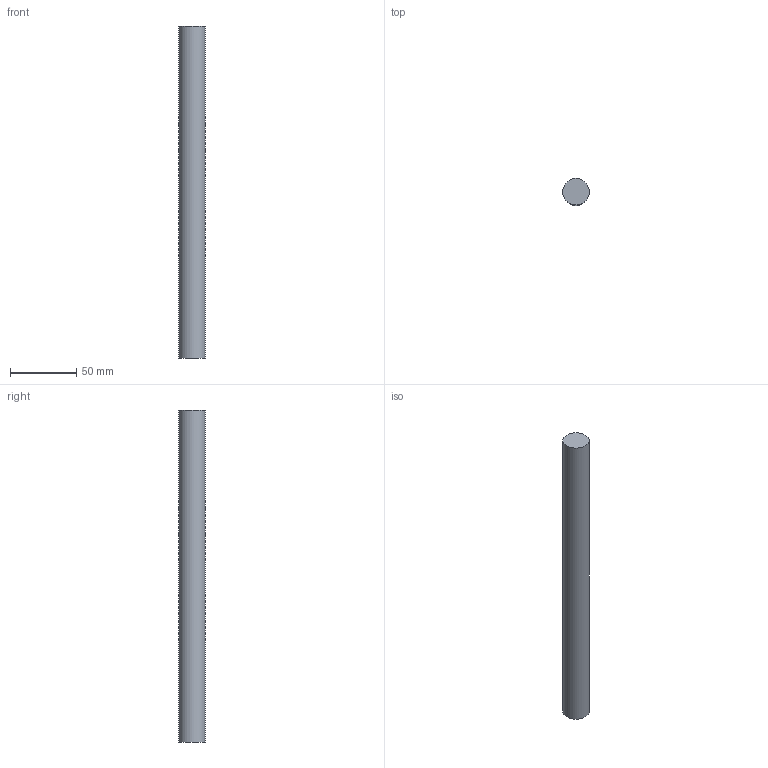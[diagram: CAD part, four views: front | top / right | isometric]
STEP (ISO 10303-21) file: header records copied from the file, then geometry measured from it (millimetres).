
FILE_DESCRIPTION(/* description */ (''),/* implementation_level */ '2;1');
FILE_NAME(/* name */ 'C:\Users\David\Desktop\stepFiles\Profilfuehrung\WF20x250.stp',/* time_stamp */ '2018-06-24T15:49:01+02:00',/* author */ ('David'),/* organization */ (''),/* preprocessor_version */ 'ST-DEVELOPER v17',/* originating_system */ 'Autodesk Inventor 2019',/* authorisation */ '');
FILE_SCHEMA (('AUTOMOTIVE_DESIGN { 1 0 10303 214 3 1 1 }'));
Length unit declared in the file: millimetre
Products named in the file (1): Wellenfuehrung
Bounding box: 20 x 20 x 250 mm (x, y, z)
Volume: 78539.8 mm3; surface area: 16336.3 mm2
Topology: 1 solids, 1 shells, 3 faces, 3 edges, 2 vertices
Faces by surface type: plane 2, cylinder 1
Full cylindrical faces by diameter (mm): 20 x1
Entity records: 98 total; most frequent: DIRECTION 13, CARTESIAN_POINT 9, ORIENTED_EDGE 6, AXIS2_PLACEMENT_3D 6, FACE_OUTER_BOUND 3, EDGE_LOOP 3, EDGE_CURVE 3, ADVANCED_FACE 3
